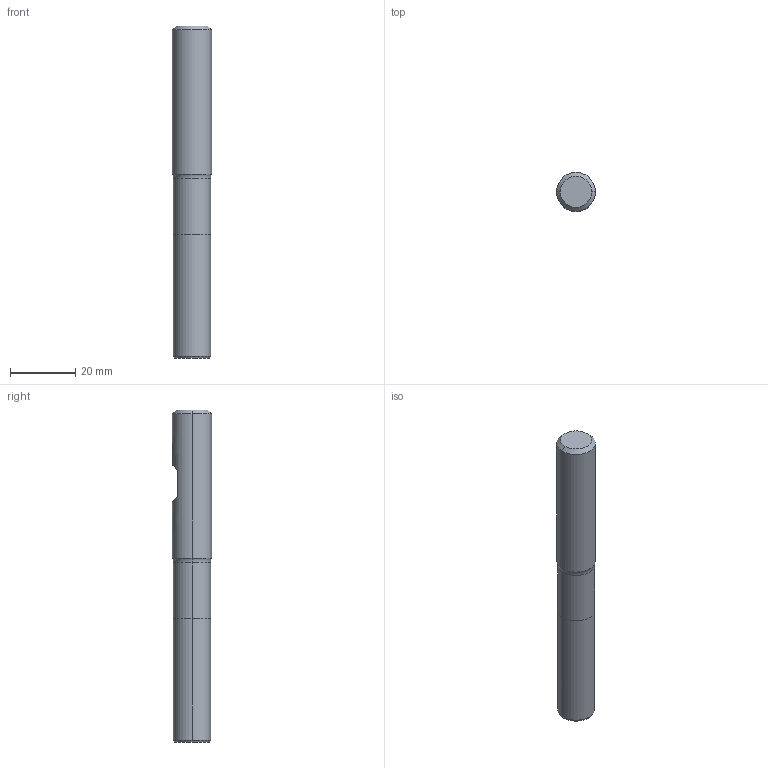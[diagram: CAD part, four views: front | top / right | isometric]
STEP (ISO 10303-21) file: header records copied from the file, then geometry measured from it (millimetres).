
FILE_DESCRIPTION (( 'STEP AP214' ), '1' );
FILE_NAME ('817.114.10_3D-model.step', '2022-02-24T00:07:14', ( '' ), ( '' ), 'SwSTEP 2.0', 'SolidWorks 2020', '' );
FILE_SCHEMA (( 'AUTOMOTIVE_DESIGN' ));
Length unit declared in the file: millimetre
Products named in the file (3): 817.114.10_3D-model; NOCUT-3D^Baugr171; CUT-3D^Baugr171
Assembly tree (2 placements, depth 2):
  817.114.10_3D-model
    CUT-3D^Baugr171
    NOCUT-3D^Baugr171
Bounding box: 12 x 12 x 102 mm (x, y, z)
Volume: 10806.2 mm3; surface area: 4123 mm2
Topology: 2 solids, 2 shells, 19 faces, 34 edges, 20 vertices
Faces by surface type: plane 7, cylinder 6, cone 4, torus 2
Entity records: 584 total; most frequent: DIRECTION 104, CARTESIAN_POINT 87, ORIENTED_EDGE 68, AXIS2_PLACEMENT_3D 45, EDGE_CURVE 34, VERTEX_POINT 20, EDGE_LOOP 20, FACE_OUTER_BOUND 19
